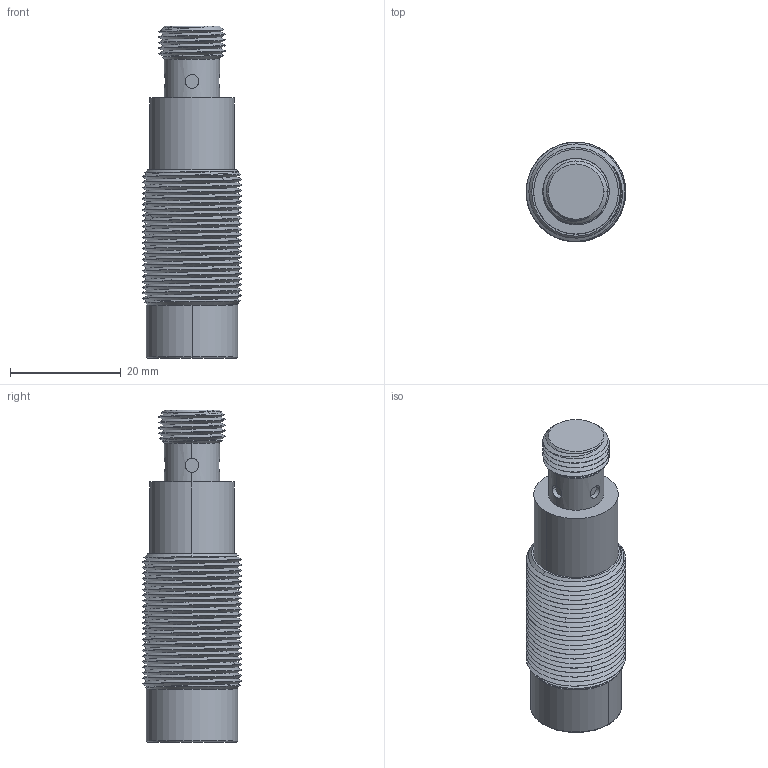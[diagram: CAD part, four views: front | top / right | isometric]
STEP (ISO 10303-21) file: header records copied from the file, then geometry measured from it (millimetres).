
FILE_DESCRIPTION((''),'2;1');
FILE_NAME('111','2020-12-22T',('liujing'),(''),'CREO PARAMETRIC BY PTC INC, 2015380','CREO PARAMETRIC BY PTC INC, 2015380','');
FILE_SCHEMA(('CONFIG_CONTROL_DESIGN'));
Length unit declared in the file: millimetre
Products named in the file (1): 111
Bounding box: 18 x 18 x 60 mm (x, y, z)
Volume: 11174.6 mm3; surface area: 4762.4 mm2
Topology: 1 solids, 1 shells, 107 faces, 283 edges, 183 vertices
Faces by surface type: cylinder 66, bspline 22, plane 9, cone 8, torus 2
Entity records: 10468 total; most frequent: CARTESIAN_POINT 8115, ORIENTED_EDGE 566, DIRECTION 330, EDGE_CURVE 283, VERTEX_POINT 183, B_SPLINE_CURVE_WITH_KNOTS 157, AXIS2_PLACEMENT_3D 119, EDGE_LOOP 112
